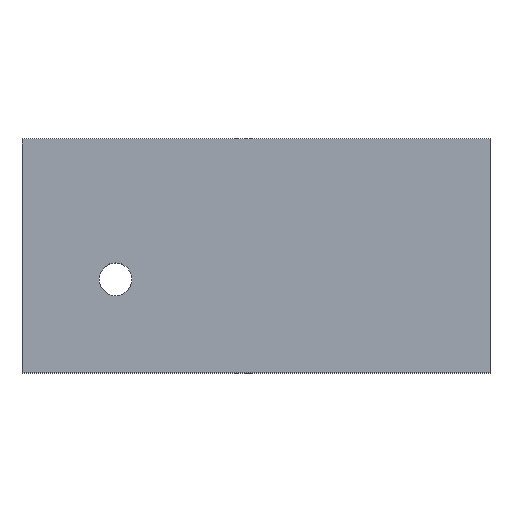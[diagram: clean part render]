
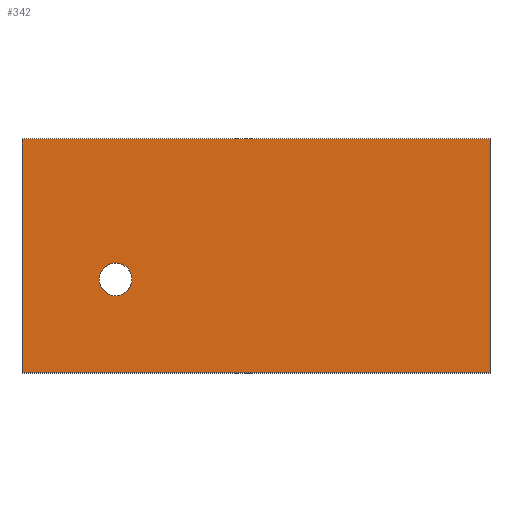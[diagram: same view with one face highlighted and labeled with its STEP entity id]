
A CAD part, top view. The second image highlights one B-rep face of the part: STEP entity #342.
In plain terms, the highlighted planar face has unit normal (0, 0, 1).
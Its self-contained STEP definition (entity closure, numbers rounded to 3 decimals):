
#24 = VERTEX_POINT('',#25);
#25 = CARTESIAN_POINT('',(0.,0.,10.));
#32 = PLANE('',#33);
#33 = AXIS2_PLACEMENT_3D('',#34,#35,#36);
#34 = CARTESIAN_POINT('',(0.,0.,0.));
#35 = DIRECTION('',(0.,1.,0.));
#36 = DIRECTION('',(1.,0.,0.));
#44 = PLANE('',#45);
#45 = AXIS2_PLACEMENT_3D('',#46,#47,#48);
#46 = CARTESIAN_POINT('',(0.,100.,0.));
#47 = DIRECTION('',(1.,0.,-0.));
#48 = DIRECTION('',(0.,-1.,0.));
#56 = EDGE_CURVE('',#24,#57,#59,.T.);
#57 = VERTEX_POINT('',#58);
#58 = CARTESIAN_POINT('',(200.,0.,10.));
#59 = SURFACE_CURVE('',#60,(#64,#71),.PCURVE_S1.);
#60 = LINE('',#61,#62);
#61 = CARTESIAN_POINT('',(0.,0.,10.));
#62 = VECTOR('',#63,1.);
#63 = DIRECTION('',(1.,0.,0.));
#64 = PCURVE('',#32,#65);
#65 = DEFINITIONAL_REPRESENTATION('',(#66),#70);
#66 = LINE('',#67,#68);
#67 = CARTESIAN_POINT('',(0.,-10.));
#68 = VECTOR('',#69,1.);
#69 = DIRECTION('',(1.,0.));
#70 = ( GEOMETRIC_REPRESENTATION_CONTEXT(2) 
PARAMETRIC_REPRESENTATION_CONTEXT() REPRESENTATION_CONTEXT('2D SPACE',''
  ) );
#71 = PCURVE('',#72,#77);
#72 = PLANE('',#73);
#73 = AXIS2_PLACEMENT_3D('',#74,#75,#76);
#74 = CARTESIAN_POINT('',(100.,50.,10.));
#75 = DIRECTION('',(0.,0.,1.));
#76 = DIRECTION('',(1.,0.,-0.));
#77 = DEFINITIONAL_REPRESENTATION('',(#78),#82);
#78 = LINE('',#79,#80);
#79 = CARTESIAN_POINT('',(-100.,-50.));
#80 = VECTOR('',#81,1.);
#81 = DIRECTION('',(1.,0.));
#82 = ( GEOMETRIC_REPRESENTATION_CONTEXT(2) 
PARAMETRIC_REPRESENTATION_CONTEXT() REPRESENTATION_CONTEXT('2D SPACE',''
  ) );
#100 = PLANE('',#101);
#101 = AXIS2_PLACEMENT_3D('',#102,#103,#104);
#102 = CARTESIAN_POINT('',(200.,0.,0.));
#103 = DIRECTION('',(-1.,0.,0.));
#104 = DIRECTION('',(0.,1.,0.));
#144 = VERTEX_POINT('',#145);
#145 = CARTESIAN_POINT('',(0.,100.,10.));
#159 = PLANE('',#160);
#160 = AXIS2_PLACEMENT_3D('',#161,#162,#163);
#161 = CARTESIAN_POINT('',(200.,100.,0.));
#162 = DIRECTION('',(0.,-1.,0.));
#163 = DIRECTION('',(-1.,0.,0.));
#171 = EDGE_CURVE('',#144,#24,#172,.T.);
#172 = SURFACE_CURVE('',#173,(#177,#184),.PCURVE_S1.);
#173 = LINE('',#174,#175);
#174 = CARTESIAN_POINT('',(0.,100.,10.));
#175 = VECTOR('',#176,1.);
#176 = DIRECTION('',(0.,-1.,0.));
#177 = PCURVE('',#44,#178);
#178 = DEFINITIONAL_REPRESENTATION('',(#179),#183);
#179 = LINE('',#180,#181);
#180 = CARTESIAN_POINT('',(0.,-10.));
#181 = VECTOR('',#182,1.);
#182 = DIRECTION('',(1.,0.));
#183 = ( GEOMETRIC_REPRESENTATION_CONTEXT(2) 
PARAMETRIC_REPRESENTATION_CONTEXT() REPRESENTATION_CONTEXT('2D SPACE',''
  ) );
#184 = PCURVE('',#72,#185);
#185 = DEFINITIONAL_REPRESENTATION('',(#186),#190);
#186 = LINE('',#187,#188);
#187 = CARTESIAN_POINT('',(-100.,50.));
#188 = VECTOR('',#189,1.);
#189 = DIRECTION('',(0.,-1.));
#190 = ( GEOMETRIC_REPRESENTATION_CONTEXT(2) 
PARAMETRIC_REPRESENTATION_CONTEXT() REPRESENTATION_CONTEXT('2D SPACE',''
  ) );
#218 = EDGE_CURVE('',#57,#219,#221,.T.);
#219 = VERTEX_POINT('',#220);
#220 = CARTESIAN_POINT('',(200.,100.,10.));
#221 = SURFACE_CURVE('',#222,(#226,#233),.PCURVE_S1.);
#222 = LINE('',#223,#224);
#223 = CARTESIAN_POINT('',(200.,0.,10.));
#224 = VECTOR('',#225,1.);
#225 = DIRECTION('',(0.,1.,0.));
#226 = PCURVE('',#100,#227);
#227 = DEFINITIONAL_REPRESENTATION('',(#228),#232);
#228 = LINE('',#229,#230);
#229 = CARTESIAN_POINT('',(0.,-10.));
#230 = VECTOR('',#231,1.);
#231 = DIRECTION('',(1.,0.));
#232 = ( GEOMETRIC_REPRESENTATION_CONTEXT(2) 
PARAMETRIC_REPRESENTATION_CONTEXT() REPRESENTATION_CONTEXT('2D SPACE',''
  ) );
#233 = PCURVE('',#72,#234);
#234 = DEFINITIONAL_REPRESENTATION('',(#235),#239);
#235 = LINE('',#236,#237);
#236 = CARTESIAN_POINT('',(100.,-50.));
#237 = VECTOR('',#238,1.);
#238 = DIRECTION('',(0.,1.));
#239 = ( GEOMETRIC_REPRESENTATION_CONTEXT(2) 
PARAMETRIC_REPRESENTATION_CONTEXT() REPRESENTATION_CONTEXT('2D SPACE',''
  ) );
#331 = CYLINDRICAL_SURFACE('',#332,7.);
#332 = AXIS2_PLACEMENT_3D('',#333,#334,#335);
#333 = CARTESIAN_POINT('',(40.,40.,-1.));
#334 = DIRECTION('',(0.,0.,1.));
#335 = DIRECTION('',(1.,0.,-0.));
#342 = ADVANCED_FACE('',(#343,#369),#72,.T.);
#343 = FACE_BOUND('',#344,.T.);
#344 = EDGE_LOOP('',(#345,#346,#347,#368));
#345 = ORIENTED_EDGE('',*,*,#56,.T.);
#346 = ORIENTED_EDGE('',*,*,#218,.T.);
#347 = ORIENTED_EDGE('',*,*,#348,.T.);
#348 = EDGE_CURVE('',#219,#144,#349,.T.);
#349 = SURFACE_CURVE('',#350,(#354,#361),.PCURVE_S1.);
#350 = LINE('',#351,#352);
#351 = CARTESIAN_POINT('',(200.,100.,10.));
#352 = VECTOR('',#353,1.);
#353 = DIRECTION('',(-1.,0.,0.));
#354 = PCURVE('',#72,#355);
#355 = DEFINITIONAL_REPRESENTATION('',(#356),#360);
#356 = LINE('',#357,#358);
#357 = CARTESIAN_POINT('',(100.,50.));
#358 = VECTOR('',#359,1.);
#359 = DIRECTION('',(-1.,0.));
#360 = ( GEOMETRIC_REPRESENTATION_CONTEXT(2) 
PARAMETRIC_REPRESENTATION_CONTEXT() REPRESENTATION_CONTEXT('2D SPACE',''
  ) );
#361 = PCURVE('',#159,#362);
#362 = DEFINITIONAL_REPRESENTATION('',(#363),#367);
#363 = LINE('',#364,#365);
#364 = CARTESIAN_POINT('',(0.,-10.));
#365 = VECTOR('',#366,1.);
#366 = DIRECTION('',(1.,0.));
#367 = ( GEOMETRIC_REPRESENTATION_CONTEXT(2) 
PARAMETRIC_REPRESENTATION_CONTEXT() REPRESENTATION_CONTEXT('2D SPACE',''
  ) );
#368 = ORIENTED_EDGE('',*,*,#171,.T.);
#369 = FACE_BOUND('',#370,.T.);
#370 = EDGE_LOOP('',(#371));
#371 = ORIENTED_EDGE('',*,*,#372,.F.);
#372 = EDGE_CURVE('',#373,#373,#375,.T.);
#373 = VERTEX_POINT('',#374);
#374 = CARTESIAN_POINT('',(47.,40.,10.));
#375 = SURFACE_CURVE('',#376,(#381,#388),.PCURVE_S1.);
#376 = CIRCLE('',#377,7.);
#377 = AXIS2_PLACEMENT_3D('',#378,#379,#380);
#378 = CARTESIAN_POINT('',(40.,40.,10.));
#379 = DIRECTION('',(0.,0.,1.));
#380 = DIRECTION('',(1.,0.,-0.));
#381 = PCURVE('',#72,#382);
#382 = DEFINITIONAL_REPRESENTATION('',(#383),#387);
#383 = CIRCLE('',#384,7.);
#384 = AXIS2_PLACEMENT_2D('',#385,#386);
#385 = CARTESIAN_POINT('',(-60.,-10.));
#386 = DIRECTION('',(1.,0.));
#387 = ( GEOMETRIC_REPRESENTATION_CONTEXT(2) 
PARAMETRIC_REPRESENTATION_CONTEXT() REPRESENTATION_CONTEXT('2D SPACE',''
  ) );
#388 = PCURVE('',#331,#389);
#389 = DEFINITIONAL_REPRESENTATION('',(#390),#394);
#390 = LINE('',#391,#392);
#391 = CARTESIAN_POINT('',(0.,11.));
#392 = VECTOR('',#393,1.);
#393 = DIRECTION('',(1.,0.));
#394 = ( GEOMETRIC_REPRESENTATION_CONTEXT(2) 
PARAMETRIC_REPRESENTATION_CONTEXT() REPRESENTATION_CONTEXT('2D SPACE',''
  ) );
